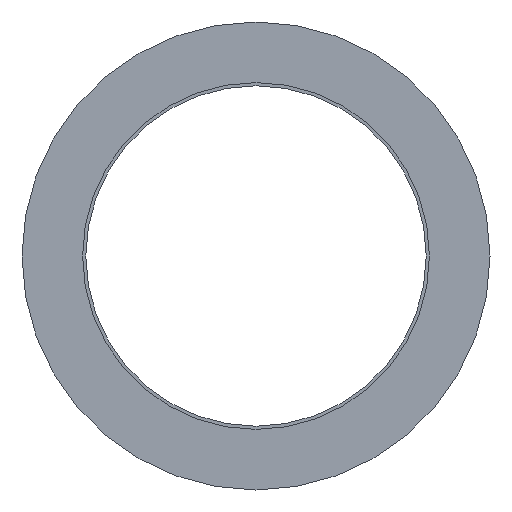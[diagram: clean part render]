
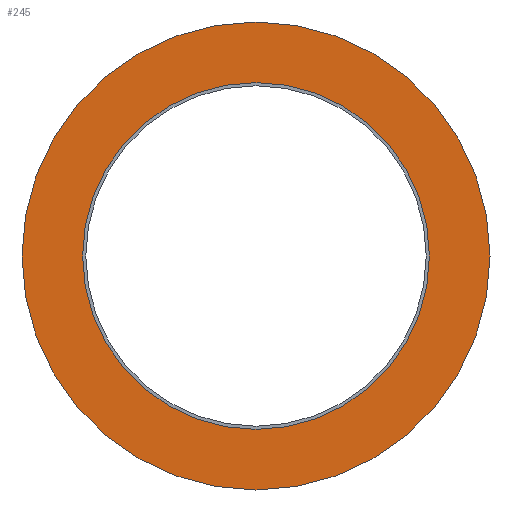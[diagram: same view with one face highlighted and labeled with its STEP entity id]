
A CAD part, left-side view. The second image highlights one B-rep face of the part: STEP entity #245.
In plain terms, the highlighted planar face has unit normal (-1, 0, 0).
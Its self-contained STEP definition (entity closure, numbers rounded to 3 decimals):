
#30 = CARTESIAN_POINT ( 'NONE',  ( -2.218, -0.037, 0. ) ) ;
#37 = CIRCLE ( 'NONE', #263, 5.5 ) ;
#38 = DIRECTION ( 'NONE',  ( 0., 0., 1. ) ) ;
#48 = ORIENTED_EDGE ( 'NONE', *, *, #141, .T. ) ;
#63 = CARTESIAN_POINT ( 'NONE',  ( -2.218, -0.037, -4.075 ) ) ;
#82 = VERTEX_POINT ( 'NONE', #119 ) ;
#84 = CARTESIAN_POINT ( 'NONE',  ( -2.218, -0.037, 0. ) ) ;
#102 = PLANE ( 'NONE',  #148 ) ;
#105 = ORIENTED_EDGE ( 'NONE', *, *, #402, .T. ) ;
#107 = DIRECTION ( 'NONE',  ( -1., 0., 0. ) ) ;
#119 = CARTESIAN_POINT ( 'NONE',  ( -2.218, -0.037, 5.5 ) ) ;
#129 = EDGE_LOOP ( 'NONE', ( #48, #105 ) ) ;
#131 = CIRCLE ( 'NONE', #259, 4.075 ) ;
#132 = CARTESIAN_POINT ( 'NONE',  ( -2.218, -0.037, 0. ) ) ;
#133 = DIRECTION ( 'NONE',  ( 0., 0., 1. ) ) ;
#141 = EDGE_CURVE ( 'NONE', #82, #205, #206, .T. ) ;
#148 = AXIS2_PLACEMENT_3D ( 'NONE', #30, #410, #162 ) ;
#160 = ORIENTED_EDGE ( 'NONE', *, *, #251, .F. ) ;
#162 = DIRECTION ( 'NONE',  ( 0., 0., -1. ) ) ;
#166 = AXIS2_PLACEMENT_3D ( 'NONE', #188, #107, #227 ) ;
#168 = FACE_BOUND ( 'NONE', #217, .T. ) ;
#184 = FACE_OUTER_BOUND ( 'NONE', #129, .T. ) ;
#188 = CARTESIAN_POINT ( 'NONE',  ( -2.218, -0.037, 0. ) ) ;
#197 = CIRCLE ( 'NONE', #166, 4.075 ) ;
#205 = VERTEX_POINT ( 'NONE', #242 ) ;
#206 = CIRCLE ( 'NONE', #273, 5.5 ) ;
#209 = DIRECTION ( 'NONE',  ( -1., 0., 0. ) ) ;
#215 = CARTESIAN_POINT ( 'NONE',  ( -2.218, -0.037, 0. ) ) ;
#217 = EDGE_LOOP ( 'NONE', ( #160, #331 ) ) ;
#218 = DIRECTION ( 'NONE',  ( 0., 0., 1. ) ) ;
#227 = DIRECTION ( 'NONE',  ( 0., 0., 1. ) ) ;
#242 = CARTESIAN_POINT ( 'NONE',  ( -2.218, -0.037, -5.5 ) ) ;
#245 = ADVANCED_FACE ( 'NONE', ( #168, #184 ), #102, .F. ) ;
#251 = EDGE_CURVE ( 'NONE', #336, #380, #131, .T. ) ;
#256 = EDGE_CURVE ( 'NONE', #380, #336, #197, .T. ) ;
#259 = AXIS2_PLACEMENT_3D ( 'NONE', #84, #340, #38 ) ;
#263 = AXIS2_PLACEMENT_3D ( 'NONE', #132, #325, #218 ) ;
#273 = AXIS2_PLACEMENT_3D ( 'NONE', #215, #209, #133 ) ;
#325 = DIRECTION ( 'NONE',  ( -1., 0., 0. ) ) ;
#331 = ORIENTED_EDGE ( 'NONE', *, *, #256, .F. ) ;
#333 = CARTESIAN_POINT ( 'NONE',  ( -2.218, -0.037, 4.075 ) ) ;
#336 = VERTEX_POINT ( 'NONE', #63 ) ;
#340 = DIRECTION ( 'NONE',  ( -1., 0., 0. ) ) ;
#380 = VERTEX_POINT ( 'NONE', #333 ) ;
#402 = EDGE_CURVE ( 'NONE', #205, #82, #37, .T. ) ;
#410 = DIRECTION ( 'NONE',  ( 1., 0., 0. ) ) ;
